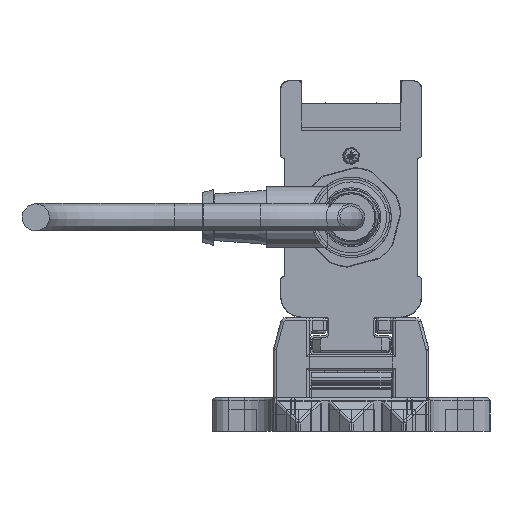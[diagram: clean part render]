
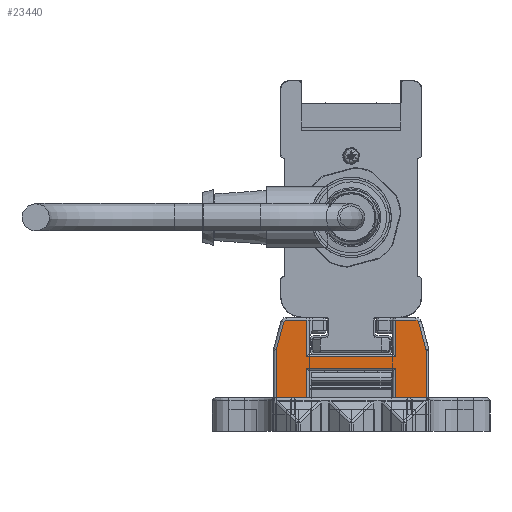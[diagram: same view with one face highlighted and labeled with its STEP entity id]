
A CAD part, left-side view. The second image highlights one B-rep face of the part: STEP entity #23440.
In plain terms, the highlighted planar face has unit normal (-1, 0, 0).
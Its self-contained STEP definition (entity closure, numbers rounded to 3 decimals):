
#23440=ADVANCED_FACE('', (#23450), #23460, .T.);
#165170=AXIS2_PLACEMENT_3D('Ax2Pl3d', #165180, #165190, #165200);
#165410=AXIS2_PLACEMENT_3D('Ax2Pl3d', #165420, #165430, #165440);
#170290=AXIS2_PLACEMENT_3D('Ax2Pl3d', #170300, #170310, #170320);
#175370=AXIS2_PLACEMENT_3D('Ax2Pl3d', #175380, #175390, #175400);
#185050=AXIS2_PLACEMENT_3D('Ax2Pl3d', #185060, #185070, #185080);
#714080=CARTESIAN_POINT('', (-747.669,-4886.345,
331.37));
#165180=CARTESIAN_POINT('HicPkt', (-747.669,-4885.379,
331.111));
#714090=CARTESIAN_POINT('', (-747.669,-4886.379,331.111)
);
#714100=CARTESIAN_POINT('', (-747.669,-4885.037,
336.255));
#714120=CARTESIAN_POINT('', (-747.669,-4885.037,
336.255));
#714150=CARTESIAN_POINT('', (-747.669,-4884.554,
336.625));
#165420=CARTESIAN_POINT('HicPkt', (-747.669,-4884.554,
336.125));
#714370=CARTESIAN_POINT('', (-747.669,-4886.379,322.625)
);
#714380=CARTESIAN_POINT('', (-747.669,-4880.881,322.625)
);
#714390=CARTESIAN_POINT('', (-747.669,-4880.881,322.625)
);
#714470=CARTESIAN_POINT('', (-747.669,-4864.881,322.625)
);
#714480=CARTESIAN_POINT('', (-747.669,-4859.383,322.625)
);
#714490=CARTESIAN_POINT('', (-747.669,-4859.383,322.625)
);
#170300=CARTESIAN_POINT('HicPkt', (-747.669,-4861.209,
336.125));
#716960=CARTESIAN_POINT('', (-747.669,-4860.726,
336.255));
#716970=CARTESIAN_POINT('', (-747.669,-4861.209,
336.625));
#716980=CARTESIAN_POINT('', (-747.669,-4880.881,
330.025));
#716990=CARTESIAN_POINT('', (-747.669,-4864.881,
330.025));
#717000=CARTESIAN_POINT('', (-747.669,-4880.881,
330.025));
#717160=CARTESIAN_POINT('', (-747.669,-4880.881,
328.005));
#717170=CARTESIAN_POINT('', (-747.669,-4864.881,
328.005));
#717180=CARTESIAN_POINT('', (-747.669,-4864.881,
328.005));
#717190=CARTESIAN_POINT('', (-747.669,-4880.881,
328.005));
#717210=CARTESIAN_POINT('', (-747.669,-4864.881,322.625)
);
#717220=CARTESIAN_POINT('', (-747.669,-4864.881,
330.025));
#717230=CARTESIAN_POINT('', (-747.669,-4864.881,
336.625));
#718080=CARTESIAN_POINT('', (-747.669,-4864.881,
336.625));
#718090=CARTESIAN_POINT('', (-747.669,-4860.726,
336.255));
#718100=CARTESIAN_POINT('', (-747.669,-4859.417,
331.37));
#718290=CARTESIAN_POINT('', (-747.669,-4859.383,331.111)
);
#718300=CARTESIAN_POINT('', (-747.669,-4859.383,331.111)
);
#175380=CARTESIAN_POINT('HicPkt', (-747.669,-4860.383,
331.111));
#719110=CARTESIAN_POINT('', (-747.669,-4886.379,331.111)
);
#185060=CARTESIAN_POINT('HicPkt', (-747.669,-4884.554,
336.625));
#720910=CARTESIAN_POINT('', (-747.669,-4880.881,
336.625));
#720920=CARTESIAN_POINT('', (-747.669,-4880.881,
336.625));
#720930=CARTESIAN_POINT('', (-747.669,-4880.881,
336.625));
#828200=CIRCLE('Circle', #165170, 1.);
#828240=CIRCLE('Circle', #165410, 0.5);
#828820=CIRCLE('Circle', #170290, 0.5);
#829350=CIRCLE('Circle', #175370, 1.);
#165190=DIRECTION('Axis', (-1.,0.,
0.));
#165200=DIRECTION('RefDirection', (0.,
0.,-1.));
#1155220=DIRECTION('', (0.,0.259,
0.966));
#165430=DIRECTION('Axis', (-1.,0.,
0.));
#165440=DIRECTION('RefDirection', (0.,
0.,-1.));
#1155330=DIRECTION('', (0.,1.,0.));
#1155370=DIRECTION('', (0.,1.,0.));
#170310=DIRECTION('Axis', (1.,0.,
0.));
#170320=DIRECTION('RefDirection', (0.,
0.,-1.));
#1156560=DIRECTION('', (0.,-1.,0.));
#1156660=DIRECTION('', (0.,1.,0.));
#1156670=DIRECTION('', (0.,0.,1.));
#1156690=DIRECTION('', (0.,0.,-1.));
#1156700=DIRECTION('', (0.,0.,-1.));
#1157130=DIRECTION('', (0.,-1.,0.))
;
#1157140=DIRECTION('', (0.,-0.259,0.966));
#1157230=DIRECTION('', (0.,0.,1.));
#175390=DIRECTION('Axis', (1.,0.,
0.));
#175400=DIRECTION('RefDirection', (0.,
0.,-1.));
#1157600=DIRECTION('', (0.,0.,1.));
#185070=DIRECTION('Axis', (-1.,0.,
0.));
#185080=DIRECTION('RefDirection', (0.,
0.,-1.));
#1158440=DIRECTION('', (0.,1.,0.));
#1158450=DIRECTION('', (0.,0.,1.));
#1233130=EDGE_CURVE('', #1233140, #1233120, #828200, .T.);
#1233190=EDGE_CURVE('', #1233120, #1233170, #1233200, .T.);
#1233260=EDGE_CURVE('', #1233170, #1233250, #828240, .T.);
#1233710=EDGE_CURVE('', #1233700, #1233720, #1233730, .T.);
#1233870=EDGE_CURVE('', #1233860, #1233880, #1233890, .T.);
#1238230=EDGE_CURVE('', #1238240, #1238250, #828820, .T.);
#1238280=EDGE_CURVE('', #1238290, #1238300, #1238310, .T.);
#1238650=EDGE_CURVE('', #1238630, #1238660, #1238670, .T.);
#1238700=EDGE_CURVE('', #1233720, #1238630, #1238710, .T.);
#1238740=EDGE_CURVE('', #1238660, #1233860, #1238750, .T.);
#1238760=EDGE_CURVE('', #1238770, #1238290, #1238780, .T.);
#1240600=EDGE_CURVE('', #1238250, #1238770, #1240610, .T.);
#1240670=EDGE_CURVE('', #1240680, #1238240, #1240690, .T.);
#1241110=EDGE_CURVE('', #1233880, #1241120, #1241130, .T.);
#1241150=EDGE_CURVE('', #1241120, #1240680, #829350, .T.);
#1242860=EDGE_CURVE('', #1233700, #1233140, #1242870, .T.);
#1246670=EDGE_CURVE('', #1233250, #1246680, #1246690, .T.);
#1246700=EDGE_CURVE('', #1238300, #1246680, #1246710, .T.);
#1483650=EDGE_LOOP('Edge_loop', (#1483660,#1483670,#1483680,#1483690,
#1483700,#1483710,#1483720,#1483730,#1483740,#1483750,#1483760,
#1483770,#1483780,#1483790,#1483800,#1483810,#1483820,#1483830));
#23450=FACE_OUTER_BOUND('Face_outer_bound', #1483650, .T.);
#1233200=LINE('Line', #714120, #1704690);
#1233730=LINE('Line', #714380, #1704800);
#1233890=LINE('Line', #714480, #1704840);
#1238310=LINE('Line', #716980, #1706030);
#1238670=LINE('Line', #717170, #1706130);
#1238710=LINE('Line', #717190, #1706140);
#1238750=LINE('Line', #717210, #1706160);
#1238780=LINE('Line', #717220, #1706170);
#1240610=LINE('Line', #718080, #1706600);
#1240690=LINE('Line', #718090, #1706610);
#1241130=LINE('Line', #718290, #1706700);
#1242870=LINE('Line', #719110, #1707070);
#1246690=LINE('Line', #720910, #1707910);
#1246710=LINE('Line', #720930, #1707920);
#1483660=ORIENTED_EDGE('', *, *, #1246670, .T.);
#1483670=ORIENTED_EDGE('', *, *, #1246700, .F.);
#1483680=ORIENTED_EDGE('', *, *, #1238280, .F.);
#1483690=ORIENTED_EDGE('', *, *, #1238760, .F.);
#1483700=ORIENTED_EDGE('', *, *, #1240600, .F.);
#1483710=ORIENTED_EDGE('', *, *, #1238230, .F.);
#1483720=ORIENTED_EDGE('', *, *, #1240670, .F.);
#1483730=ORIENTED_EDGE('', *, *, #1241150, .F.);
#1483740=ORIENTED_EDGE('', *, *, #1241110, .F.);
#1483750=ORIENTED_EDGE('', *, *, #1233870, .F.);
#1483760=ORIENTED_EDGE('', *, *, #1238740, .F.);
#1483770=ORIENTED_EDGE('', *, *, #1238650, .F.);
#1483780=ORIENTED_EDGE('', *, *, #1238700, .F.);
#1483790=ORIENTED_EDGE('', *, *, #1233710, .F.);
#1483800=ORIENTED_EDGE('', *, *, #1242860, .T.);
#1483810=ORIENTED_EDGE('', *, *, #1233130, .T.);
#1483820=ORIENTED_EDGE('', *, *, #1233190, .T.);
#1483830=ORIENTED_EDGE('', *, *, #1233260, .T.);
#23460=PLANE('Plane', #185050);
#1704690=VECTOR('', #1155220, 5.057);
#1704800=VECTOR('', #1155330, 5.498);
#1704840=VECTOR('', #1155370, 5.498);
#1706030=VECTOR('', #1156560, 16.);
#1706130=VECTOR('', #1156660, 16.);
#1706140=VECTOR('', #1156670, 5.38);
#1706160=VECTOR('', #1156690, 5.38);
#1706170=VECTOR('', #1156700, 6.6);
#1706600=VECTOR('', #1157130, 3.672);
#1706610=VECTOR('', #1157140, 5.057);
#1706700=VECTOR('', #1157230, 8.486);
#1707070=VECTOR('', #1157600, 8.486);
#1707910=VECTOR('', #1158440, 3.672);
#1707920=VECTOR('', #1158450, 6.6);
#1233120=VERTEX_POINT('', #714080);
#1233140=VERTEX_POINT('', #714090);
#1233170=VERTEX_POINT('', #714100);
#1233250=VERTEX_POINT('', #714150);
#1233700=VERTEX_POINT('', #714370);
#1233720=VERTEX_POINT('', #714390);
#1233860=VERTEX_POINT('', #714470);
#1233880=VERTEX_POINT('', #714490);
#1238240=VERTEX_POINT('', #716960);
#1238250=VERTEX_POINT('', #716970);
#1238290=VERTEX_POINT('', #716990);
#1238300=VERTEX_POINT('', #717000);
#1238630=VERTEX_POINT('', #717160);
#1238660=VERTEX_POINT('', #717180);
#1238770=VERTEX_POINT('', #717230);
#1240680=VERTEX_POINT('', #718100);
#1241120=VERTEX_POINT('', #718300);
#1246680=VERTEX_POINT('', #720920);
